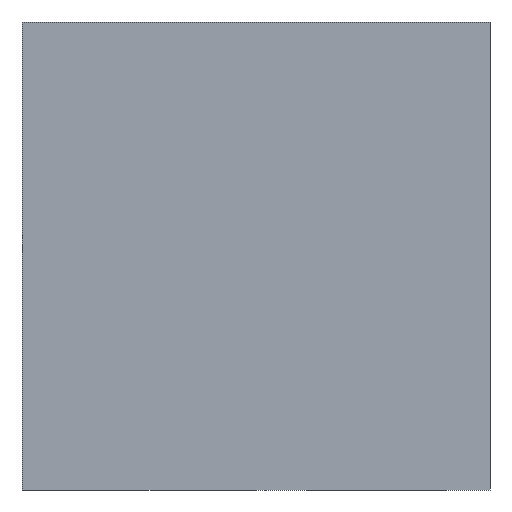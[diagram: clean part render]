
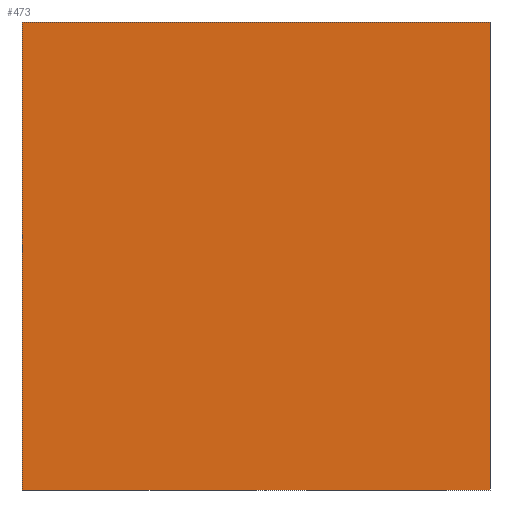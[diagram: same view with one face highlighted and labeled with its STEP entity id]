
A CAD part, left-side view. The second image highlights one B-rep face of the part: STEP entity #473.
In plain terms, the highlighted planar face has unit normal (-1, 0, 0).
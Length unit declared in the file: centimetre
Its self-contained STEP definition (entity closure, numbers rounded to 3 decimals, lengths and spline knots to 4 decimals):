
#1 = EDGE_LOOP ( 'NONE', ( #284, #411, #229, #276 ) ) ;
#58 = VERTEX_POINT ( 'NONE', #520 ) ;
#69 = DIRECTION ( 'NONE',  ( 0., 0., -1. ) ) ;
#83 = EDGE_CURVE ( 'NONE', #58, #235, #397, .T. ) ;
#85 = VECTOR ( 'NONE', #444, 100. ) ;
#124 = LINE ( 'NONE', #437, #291 ) ;
#126 = EDGE_CURVE ( 'NONE', #512, #271, #429, .T. ) ;
#138 = CARTESIAN_POINT ( 'NONE',  ( 0., 0., 1000. ) ) ;
#156 = PLANE ( 'NONE',  #355 ) ;
#157 = CARTESIAN_POINT ( 'NONE',  ( 0., 1000., 1000. ) ) ;
#177 = CARTESIAN_POINT ( 'NONE',  ( 0., 1000., 0. ) ) ;
#207 = DIRECTION ( 'NONE',  ( 0., 0., -1. ) ) ;
#229 = ORIENTED_EDGE ( 'NONE', *, *, #233, .F. ) ;
#233 = EDGE_CURVE ( 'NONE', #58, #512, #124, .T. ) ;
#235 = VERTEX_POINT ( 'NONE', #177 ) ;
#258 = DIRECTION ( 'NONE',  ( 0., 0., -1. ) ) ;
#271 = VERTEX_POINT ( 'NONE', #539 ) ;
#276 = ORIENTED_EDGE ( 'NONE', *, *, #83, .T. ) ;
#284 = ORIENTED_EDGE ( 'NONE', *, *, #318, .T. ) ;
#291 = VECTOR ( 'NONE', #396, 100. ) ;
#318 = EDGE_CURVE ( 'NONE', #235, #271, #586, .T. ) ;
#355 = AXIS2_PLACEMENT_3D ( 'NONE', #476, #519, #69 ) ;
#357 = CARTESIAN_POINT ( 'NONE',  ( 0., 1000., 0. ) ) ;
#396 = DIRECTION ( 'NONE',  ( 0., -1., 0. ) ) ;
#397 = LINE ( 'NONE', #157, #495 ) ;
#411 = ORIENTED_EDGE ( 'NONE', *, *, #126, .F. ) ;
#425 = FACE_OUTER_BOUND ( 'NONE', #1, .T. ) ;
#429 = LINE ( 'NONE', #568, #463 ) ;
#437 = CARTESIAN_POINT ( 'NONE',  ( 0., 1000., 1000. ) ) ;
#444 = DIRECTION ( 'NONE',  ( 0., -1., 0. ) ) ;
#463 = VECTOR ( 'NONE', #258, 100. ) ;
#473 = ADVANCED_FACE ( 'NONE', ( #425 ), #156, .F. ) ;
#476 = CARTESIAN_POINT ( 'NONE',  ( 0., 1000., 1000. ) ) ;
#495 = VECTOR ( 'NONE', #207, 100. ) ;
#512 = VERTEX_POINT ( 'NONE', #138 ) ;
#519 = DIRECTION ( 'NONE',  ( 1., 0., 0. ) ) ;
#520 = CARTESIAN_POINT ( 'NONE',  ( 0., 1000., 1000. ) ) ;
#539 = CARTESIAN_POINT ( 'NONE',  ( 0., 0., 0. ) ) ;
#568 = CARTESIAN_POINT ( 'NONE',  ( 0., 0., 1000. ) ) ;
#586 = LINE ( 'NONE', #357, #85 ) ;
